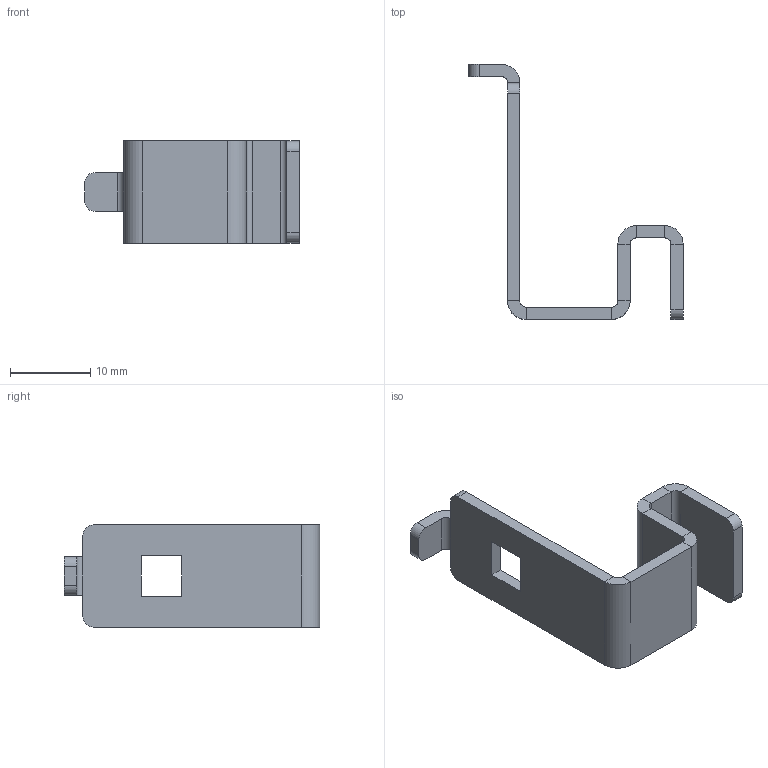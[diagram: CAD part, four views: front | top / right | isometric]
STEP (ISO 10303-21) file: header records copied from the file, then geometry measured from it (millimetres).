
FILE_DESCRIPTION((''),'2;1');
FILE_NAME('4076078','2020-05-26T13:26:12',('dking'),('Keithley Instruments'),'CREO PARAMETRIC BY PTC INC, 2019080','CREO PARAMETRIC BY PTC INC, 2019080','');
FILE_SCHEMA(('AUTOMOTIVE_DESIGN { 1 0 10303 214 1 1 1 1 }'));
Length unit declared in the file: inch
Products named in the file (1): 4076078
Bounding box: 26.67 x 31.75 x 12.7 mm (x, y, z)
Volume: 1310 mm3; surface area: 2009 mm2
Topology: 1 solids, 1 shells, 56 faces, 131 edges, 92 vertices
Faces by surface type: plane 40, cylinder 16
Entity records: 2339 total; most frequent: DIRECTION 299, CARTESIAN_POINT 286, ORIENTED_EDGE 252, COLOUR_RGB 190, EDGE_CURVE 126, VECTOR 100, LINE 100, AXIS2_PLACEMENT_3D 98
